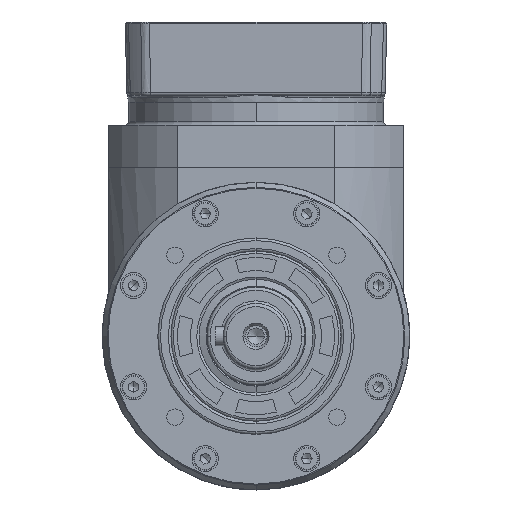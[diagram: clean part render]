
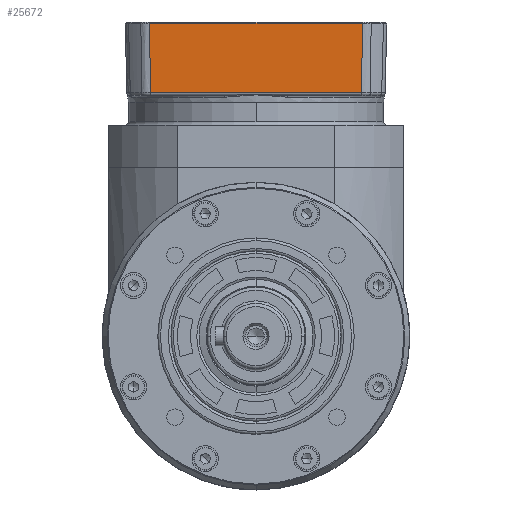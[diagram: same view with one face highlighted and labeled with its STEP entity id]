
A CAD part, left-side view. The second image highlights one B-rep face of the part: STEP entity #25672.
In plain terms, the highlighted planar face has unit normal (-1, 0, -0.026) as drawn and (0, -1, 0.026) by its records, which use the part's own axes.
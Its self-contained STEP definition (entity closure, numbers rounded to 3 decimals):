
#67 = CARTESIAN_POINT ( 'NONE',  ( 32.497, -39.99, 0.39 ) ) ;
#875 = DIRECTION ( 'NONE',  ( 0., -0.026, -1. ) ) ;
#927 = DIRECTION ( 'NONE',  ( 0., -1., 0.026 ) ) ;
#1579 = PLANE ( 'NONE',  #16380 ) ;
#1694 = EDGE_CURVE ( 'NONE', #3756, #10415, #24166, .T. ) ;
#3756 = VERTEX_POINT ( 'NONE', #67 ) ;
#4197 = DIRECTION ( 'NONE',  ( -1., 0., 0. ) ) ;
#4233 = CARTESIAN_POINT ( 'NONE',  ( -34.004, -39.436, 21.526 ) ) ;
#4562 = CARTESIAN_POINT ( 'NONE',  ( -34.004, -39.99, 0.39 ) ) ;
#4633 = DIRECTION ( 'NONE',  ( 1., 0., 0. ) ) ;
#5006 = ORIENTED_EDGE ( 'NONE', *, *, #20148, .T. ) ;
#5611 = CARTESIAN_POINT ( 'NONE',  ( -34.004, -40., 0. ) ) ;
#7826 = EDGE_LOOP ( 'NONE', ( #17614, #12137, #15452, #5006 ) ) ;
#10041 = EDGE_CURVE ( 'NONE', #42302, #24449, #15020, .T. ) ;
#10415 = VERTEX_POINT ( 'NONE', #22090 ) ;
#12137 = ORIENTED_EDGE ( 'NONE', *, *, #20143, .T. ) ;
#12431 = CARTESIAN_POINT ( 'NONE',  ( -32.497, -39.99, 0.39 ) ) ;
#15020 = LINE ( 'NONE', #29385, #34770 ) ;
#15452 = ORIENTED_EDGE ( 'NONE', *, *, #1694, .T. ) ;
#16380 = AXIS2_PLACEMENT_3D ( 'NONE', #5611, #927, #875 ) ;
#17614 = ORIENTED_EDGE ( 'NONE', *, *, #10041, .F. ) ;
#20143 = EDGE_CURVE ( 'NONE', #42302, #3756, #34486, .T. ) ;
#20148 = EDGE_CURVE ( 'NONE', #10415, #24449, #35034, .T. ) ;
#20587 = VECTOR ( 'NONE', #4633, 1000. ) ;
#22090 = CARTESIAN_POINT ( 'NONE',  ( 32.283, -39.436, 21.526 ) ) ;
#24166 = LINE ( 'NONE', #40624, #42846 ) ;
#24449 = VERTEX_POINT ( 'NONE', #24633 ) ;
#24633 = CARTESIAN_POINT ( 'NONE',  ( -32.283, -39.436, 21.526 ) ) ;
#25672 = ADVANCED_FACE ( 'NONE', ( #35974 ), #1579, .T. ) ;
#29330 = DIRECTION ( 'NONE',  ( 0.01, 0.026, 1. ) ) ;
#29385 = CARTESIAN_POINT ( 'NONE',  ( -32.283, -39.436, 21.526 ) ) ;
#31504 = VECTOR ( 'NONE', #4197, 1000. ) ;
#34486 = LINE ( 'NONE', #4562, #20587 ) ;
#34770 = VECTOR ( 'NONE', #29330, 1000. ) ;
#35034 = LINE ( 'NONE', #4233, #31504 ) ;
#35974 = FACE_OUTER_BOUND ( 'NONE', #7826, .T. ) ;
#40624 = CARTESIAN_POINT ( 'NONE',  ( 32.497, -39.99, 0.39 ) ) ;
#42302 = VERTEX_POINT ( 'NONE', #12431 ) ;
#42696 = DIRECTION ( 'NONE',  ( -0.01, 0.026, 1. ) ) ;
#42846 = VECTOR ( 'NONE', #42696, 1000. ) ;
